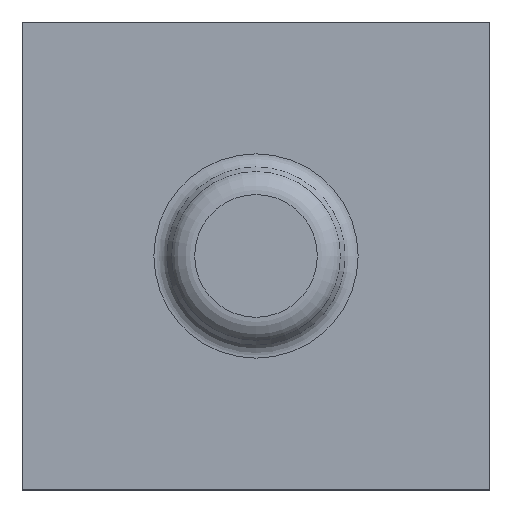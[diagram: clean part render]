
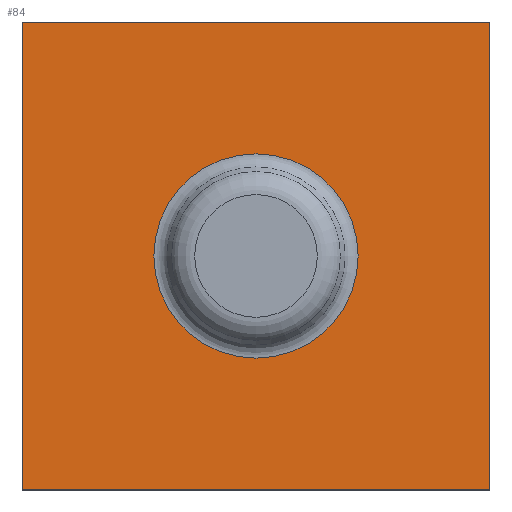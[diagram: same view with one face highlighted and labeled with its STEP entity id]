
A CAD part, top view. The second image highlights one B-rep face of the part: STEP entity #84.
In plain terms, the highlighted planar face has unit normal (0, 0, 1).
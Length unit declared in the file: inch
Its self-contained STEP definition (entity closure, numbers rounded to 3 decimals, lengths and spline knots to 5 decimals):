
#84=ADVANCED_FACE('',(#115,#116),#117,.F.);
#115=FACE_OUTER_BOUND('',#151,.T.);
#116=FACE_BOUND('',#152,.T.);
#117=PLANE('',#153);
#151=EDGE_LOOP('',(#208,#209,#210,#211));
#152=EDGE_LOOP('',(#212));
#153=AXIS2_PLACEMENT_3D('',#213,#214,#215);
#208=ORIENTED_EDGE('',*,*,#256,.T.);
#209=ORIENTED_EDGE('',*,*,#257,.T.);
#210=ORIENTED_EDGE('',*,*,#258,.T.);
#211=ORIENTED_EDGE('',*,*,#259,.T.);
#212=ORIENTED_EDGE('',*,*,#255,.F.);
#213=CARTESIAN_POINT('',(-1.24065,-0.51097,0.096));
#214=DIRECTION('',(0.,0.0,-1.0));
#215=DIRECTION('',(-1.0,0.0,0.));
#255=EDGE_CURVE('',#286,#286,#287,.T.);
#256=EDGE_CURVE('',#288,#289,#290,.T.);
#257=EDGE_CURVE('',#289,#291,#292,.T.);
#258=EDGE_CURVE('',#291,#293,#294,.T.);
#259=EDGE_CURVE('',#293,#288,#295,.T.);
#286=VERTEX_POINT('',#326);
#287=CIRCLE('',#327,0.43662);
#288=VERTEX_POINT('',#328);
#289=VERTEX_POINT('',#329);
#290=LINE('',#330,#331);
#291=VERTEX_POINT('',#332);
#292=LINE('',#333,#334);
#293=VERTEX_POINT('',#335);
#294=LINE('',#336,#337);
#295=LINE('',#338,#339);
#326=CARTESIAN_POINT('',(-1.67727,-0.51097,0.096));
#327=AXIS2_PLACEMENT_3D('',#373,#374,#375);
#328=CARTESIAN_POINT('',(-2.24065,0.48903,0.096));
#329=CARTESIAN_POINT('',(-2.24065,-1.51097,0.096));
#330=CARTESIAN_POINT('',(-2.24065,-0.51097,0.096));
#331=VECTOR('',#376,1.0);
#332=CARTESIAN_POINT('',(-0.24065,-1.51097,0.096));
#333=CARTESIAN_POINT('',(-1.24065,-1.51097,0.096));
#334=VECTOR('',#377,1.0);
#335=CARTESIAN_POINT('',(-0.24065,0.48903,0.096));
#336=CARTESIAN_POINT('',(-0.24065,-0.51097,0.096));
#337=VECTOR('',#378,1.0);
#338=CARTESIAN_POINT('',(-1.24065,0.48903,0.096));
#339=VECTOR('',#379,1.0);
#373=CARTESIAN_POINT('',(-1.24065,-0.51097,0.096));
#374=DIRECTION('',(0.,-0.0,1.0));
#375=DIRECTION('',(1.0,0.0,0.));
#376=DIRECTION('',(-0.0,-1.0,0.0));
#377=DIRECTION('',(1.0,0.0,0.));
#378=DIRECTION('',(0.0,1.0,0.0));
#379=DIRECTION('',(-1.0,0.0,0.));
